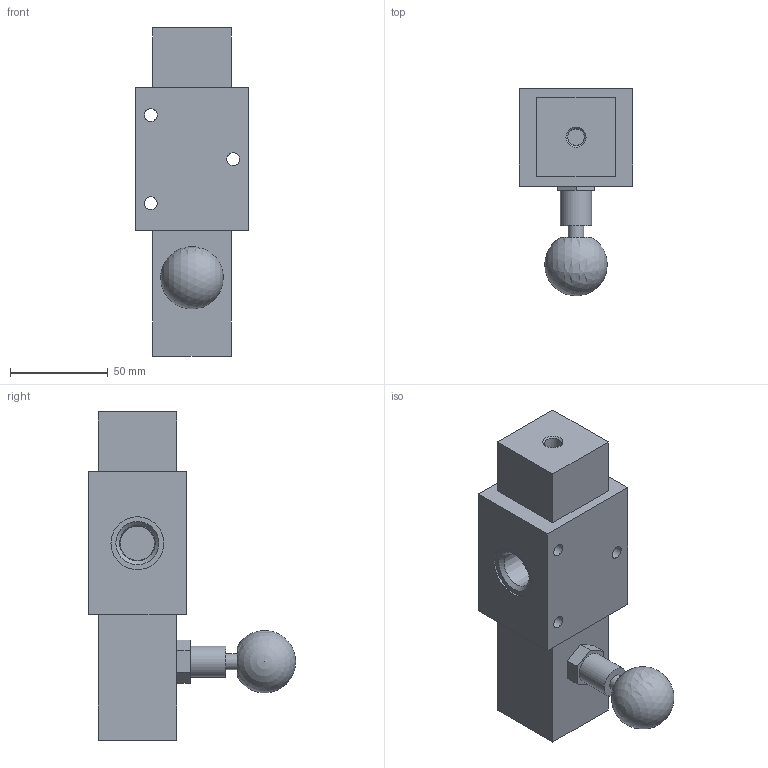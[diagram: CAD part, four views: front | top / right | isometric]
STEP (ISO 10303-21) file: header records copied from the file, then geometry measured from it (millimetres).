
FILE_DESCRIPTION(/* description */ ('V. 3/2 PNEUM.-RIARMO MAN. AUTOBLOCC. INVERSO PER ALTE TEMP.'),/* implementation_level */ '2;1');
FILE_NAME(/* name */ 'I:\Area Tecnica\Progetti\P118 (OIL&GAS)\DOCUMENTAZIONE\CATALOGO\VALVOLE INOX\LIBRERIA - SS VALV INOX\VALV SS12 NPT\SS1232#####-\SS1232C1115#.stp',/* time_stamp */ '2016-06-14T08:10:08+02:00',/* author */ ('Maniean1'),/* organization */ ('Pneumax S.p.A.'),/* preprocessor_version */ 'ST-DEVELOPER v15.2',/* originating_system */ 'Autodesk Inventor 2014',/* authorisation */ '');
FILE_SCHEMA (('AUTOMOTIVE_DESIGN { 1 0 10303 214 3 1 1 }'));
Length unit declared in the file: millimetre
Products named in the file (1): SS1232C1115#
Bounding box: 58 x 105.74 x 167.5 mm (x, y, z)
Volume: 367253.8 mm3; surface area: 46879.4 mm2
Topology: 1 solids, 1 shells, 52 faces, 118 edges, 80 vertices
Faces by surface type: plane 32, cylinder 11, cone 8, sphere 1
Full cylindrical faces by diameter (mm): 6.5 x3, 8 x1, 16 x1, 17.475 x3, 27 x3
Entity records: 1294 total; most frequent: DIRECTION 224, CARTESIAN_POINT 207, ORIENTED_EDGE 172, EDGE_LOOP 90, EDGE_CURVE 86, AXIS2_PLACEMENT_3D 85, VERTEX_POINT 68, LINE 54
